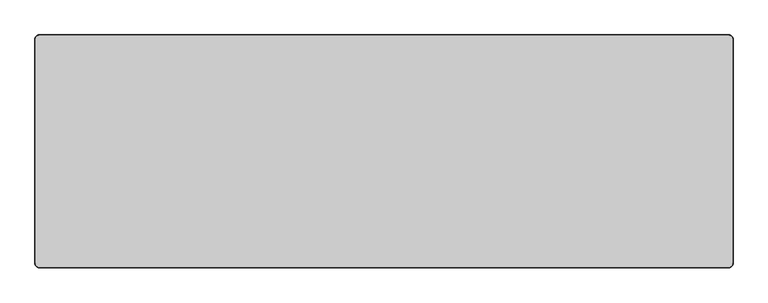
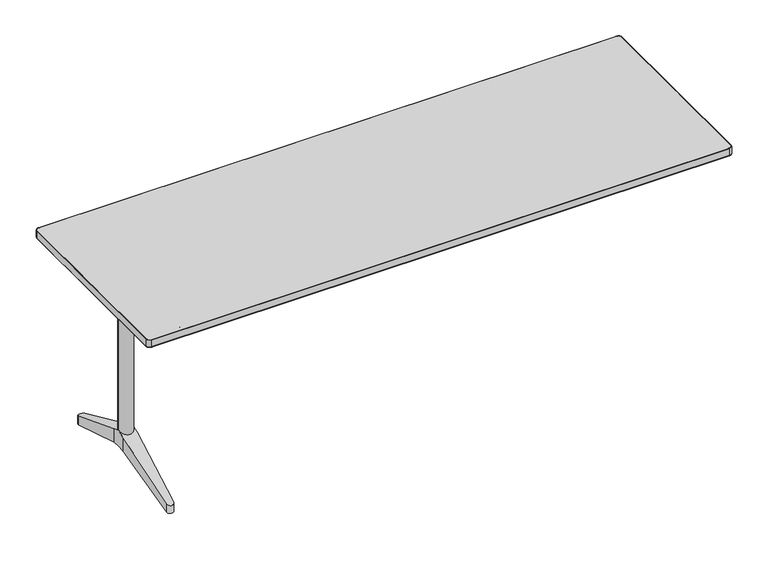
"""IFC4 building model written with IfcOpenShell, lengths in millimetres: furniture geometry."""

import ifcopenshell
import ifcopenshell.guid

model = None  # the IFC model being written
_history = None  # IfcOwnerHistory: only IFC2X3 demands one
_inside = {}  # id of a spatial element -> (the spatial element, [elements in it])
_under = {}  # id of a project, library or spatial element -> (it, [spatial elements below it])
_declared = {}  # id of a project -> (the project, [libraries it declares])
_typed = {}  # id of a type object -> (the type object, [elements of that type])
_made_of = {}  # id of a material, layer set ... -> (it, [elements and type objects made of it])


def new_model(schema):
    """Start an empty IFC model of exactly this schema.

    Asked for "IFC4X3", IfcOpenShell would pick the latest addendum, in which some entities
    have other attributes; the version numbers below select the first issue.
    IFC2X3 requires an IfcOwnerHistory on every rooted entity: one is made here for all.
    """
    global model, _history
    if schema == "IFC4X3":
        model = ifcopenshell.file(schema_version=(4, 3, 0, 0))
    else:
        model = ifcopenshell.file(schema=schema)
    _inside.clear()
    _under.clear()
    _declared.clear()
    _typed.clear()
    _made_of.clear()
    _history = None
    if model.schema == "IFC2X3":
        org = make("IfcOrganization", Name="unknown")
        user = make(
            "IfcPersonAndOrganization",
            ThePerson=make("IfcPerson", FamilyName="unknown"),
            TheOrganization=org,
        )
        app = make(
            "IfcApplication",
            ApplicationDeveloper=org,
            Version="unknown",
            ApplicationFullName="unknown",
            ApplicationIdentifier="unknown",
        )
        _history = make(
            "IfcOwnerHistory",
            OwningUser=user,
            OwningApplication=app,
            ChangeAction="ADDED",
            CreationDate=0,
        )
    return model


def make(cls, **values):
    """One entity of the class cls with the attributes given. An attribute that is None is left unset."""
    return model.create_entity(
        cls, **{name: value for name, value in values.items() if value is not None}
    )


def rooted(cls, **values):
    """An entity with a GlobalId (a new one), such as an element, a storey or a relation."""
    return make(cls, GlobalId=ifcopenshell.guid.new(), OwnerHistory=_history, **values)


def si_unit(unit_type, name, prefix=None):
    """IfcSIUnit, for example si_unit("LENGTHUNIT", "METRE", prefix="MILLI")."""
    return make("IfcSIUnit", UnitType=unit_type, Prefix=prefix, Name=name)


def assignment(units):
    """IfcUnitAssignment: the units of a project."""
    return None if units is None else make("IfcUnitAssignment", Units=units)


def point(xyz):
    """IfcCartesianPoint."""
    return None if xyz is None else make("IfcCartesianPoint", Coordinates=xyz)


def direction(xyz):
    """IfcDirection."""
    return None if xyz is None else make("IfcDirection", DirectionRatios=xyz)


def frame(location, z_axis=None, x_axis=None):
    """IfcAxis2Placement3D, a coordinate frame: its origin and axes. An axis left out is left unset."""
    return make(
        "IfcAxis2Placement3D",
        Location=point(location),
        Axis=direction(z_axis),
        RefDirection=direction(x_axis),
    )


def frame_2d(location, x_axis=None):
    """IfcAxis2Placement2D, a coordinate frame in the plane: its origin and x axis."""
    return make(
        "IfcAxis2Placement2D", Location=point(location), RefDirection=direction(x_axis)
    )


def origin():
    """The frame at (0, 0, 0) with its axes left unset."""
    return frame((0.0, 0.0, 0.0))


def place(relative_to, where):
    """IfcLocalPlacement: puts the frame where relative to a parent placement (None: the world)."""
    return make(
        "IfcLocalPlacement", PlacementRelTo=relative_to, RelativePlacement=where
    )


def context(
    kind, dimensions, precision=None, world=None, true_north=None, identifier=None
):
    """IfcGeometricRepresentationContext, for example the 3D "Model" context."""
    return make(
        "IfcGeometricRepresentationContext",
        ContextIdentifier=identifier,
        ContextType=kind,
        CoordinateSpaceDimension=dimensions,
        Precision=precision,
        WorldCoordinateSystem=world,
        TrueNorth=true_north,
    )


def project(units=None, contexts=None):
    """IfcProject with its units and contexts."""
    return rooted(
        "IfcProject",
        Name="project",
        RepresentationContexts=contexts,
        UnitsInContext=assignment(units),
    )


def spatial(cls, under=None, at=None, **own):
    """A site, building, storey or space (cls), placed at a placement, below another one or the project."""
    s = rooted(cls, ObjectPlacement=at, **own)
    if under is not None:
        _under.setdefault(under.id(), (under, []))[1].append(s)
    return s


def polyline(points):
    """IfcPolyline through the points."""
    return make("IfcPolyline", Points=[point(p) for p in points])


def circle_curve(where, radius):
    """IfcCircle in the frame where."""
    return make("IfcCircle", Position=where, Radius=radius)


def ellipse_curve(where, semi_axis1, semi_axis2):
    """IfcEllipse in the frame where."""
    return make(
        "IfcEllipse", Position=where, SemiAxis1=semi_axis1, SemiAxis2=semi_axis2
    )


def trimmed(basis, trim1, trim2, sense, master):
    """IfcTrimmedCurve: the piece of a basis curve between two trims."""
    return make(
        "IfcTrimmedCurve",
        BasisCurve=basis,
        Trim1=trim1,
        Trim2=trim2,
        SenseAgreement=sense,
        MasterRepresentation=master,
    )


def segment(curve, same_sense, transition):
    """IfcCompositeCurveSegment."""
    return make(
        "IfcCompositeCurveSegment",
        Transition=transition,
        SameSense=same_sense,
        ParentCurve=curve,
    )


def composite_curve(segments, self_intersect=None):
    """IfcCompositeCurve: segments joined end to end."""
    return make("IfcCompositeCurve", Segments=segments, SelfIntersect=self_intersect)


def outline(outer, holes=None, kind="AREA"):
    """IfcArbitraryClosedProfileDef: a profile drawn as a closed curve; with holes, ...WithVoids."""
    if holes is None:
        return make("IfcArbitraryClosedProfileDef", ProfileType=kind, OuterCurve=outer)
    return make(
        "IfcArbitraryProfileDefWithVoids",
        ProfileType=kind,
        OuterCurve=outer,
        InnerCurves=holes,
    )


def extrude(swept, where, along, depth):
    """IfcExtrudedAreaSolid: the profile swept, set in the frame where, extruded along a direction by depth."""
    return make(
        "IfcExtrudedAreaSolid",
        SweptArea=swept,
        Position=where,
        ExtrudedDirection=direction(along),
        Depth=depth,
    )


def faces_of(points, faces, orient=None, outer=None):
    """IfcFace entities. A face is a list of loops; a loop is a list of indices into points, from 0.

    orient and outer hold one flag for each loop. By default every Orientation is true, the
    first loop of a face is its IfcFaceOuterBound and the others are IfcFaceBound.
    """
    made = []
    for i, loops in enumerate(faces):
        bounds = []
        for j, loop in enumerate(loops):
            is_outer = j == 0 if outer is None else outer[i][j]
            bounds.append(
                make(
                    "IfcFaceOuterBound" if is_outer else "IfcFaceBound",
                    Bound=make("IfcPolyLoop", Polygon=[points[k] for k in loop]),
                    Orientation=True if orient is None else orient[i][j],
                )
            )
        made.append(make("IfcFace", Bounds=bounds))
    return made


def faceted_brep(points, faces, orient=None, outer=None, voids=None):
    """IfcFacetedBrep: a solid bounded by flat faces; with voids (closed shells), ...WithVoids."""
    shared = [point(p) for p in points]
    hull = make("IfcClosedShell", CfsFaces=faces_of(shared, faces, orient, outer))
    if voids is None:
        return make("IfcFacetedBrep", Outer=hull)
    return make(
        "IfcFacetedBrepWithVoids",
        Outer=hull,
        Voids=[
            make(cls, CfsFaces=faces_of(shared, fs, o, b)) for cls, fs, o, b in voids
        ],
    )


def shape(context_of_items, identifier, shape_type, items):
    """IfcShapeRepresentation: the items that make up one representation, for example the "Body"."""
    return make(
        "IfcShapeRepresentation",
        ContextOfItems=context_of_items,
        RepresentationIdentifier=identifier,
        RepresentationType=shape_type,
        Items=items,
    )


def source(mapping_origin, context_of_items, identifier, shape_type, items):
    """IfcRepresentationMap: a shape defined once, which mapped items show again and again."""
    return make(
        "IfcRepresentationMap",
        MappingOrigin=mapping_origin,
        MappedRepresentation=shape(context_of_items, identifier, shape_type, items),
    )


def transform(
    local_origin,
    x_axis=None,
    y_axis=None,
    z_axis=None,
    scale=None,
    scale2=None,
    scale3=None,
    uniform=True,
):
    """IfcCartesianTransformationOperator3D, or its non-uniform kind. x_axis, y_axis, z_axis: its Axis1, 2, 3."""
    if uniform:
        return make(
            "IfcCartesianTransformationOperator3D",
            Axis1=direction(x_axis),
            Axis2=direction(y_axis),
            LocalOrigin=point(local_origin),
            Scale=scale,
            Axis3=direction(z_axis),
        )
    return make(
        "IfcCartesianTransformationOperator3DnonUniform",
        Axis1=direction(x_axis),
        Axis2=direction(y_axis),
        LocalOrigin=point(local_origin),
        Scale=scale,
        Axis3=direction(z_axis),
        Scale2=scale2,
        Scale3=scale3,
    )


def mapped(mapping_source, mapping_target):
    """IfcMappedItem: shows the shape of a source again, moved by a transform."""
    return make(
        "IfcMappedItem", MappingSource=mapping_source, MappingTarget=mapping_target
    )


def made_of(thing, what):
    """Note that an element or type object is made of a material, layer set ...; save() writes the relation."""
    if what is not None:
        _made_of.setdefault(what.id(), (what, []))[1].append(thing)
    return thing


def element(
    cls,
    number,
    at=None,
    inside=None,
    cuts=None,
    type_object=None,
    material=None,
    context=None,
    identifier="Body",
    shape_type=None,
    held_by="IfcProductDefinitionShape",
    body=None,
    shapes=None,
    **own,
):
    """One element of the class cls, such as IfcWall. Its Tag is "e" and its number.

    at: its placement. inside: the storey or other place that contains it. cuts: it is an
    opening in that element (IfcRelVoidsElement). A single representation is given by context,
    identifier, shape_type and body (its items); several are given by shapes. held_by: the class
    of the entity that holds the representations. save() writes the other relations.
    """
    e = rooted(cls, Tag="e%d" % number, ObjectPlacement=at, **own)
    if body is not None:
        shapes = [shape(context, identifier, shape_type, body)]
    if shapes is not None:
        e.Representation = make(held_by, Representations=shapes)
    if inside is not None:
        _inside.setdefault(inside.id(), (inside, []))[1].append(e)
    if cuts is not None:
        rooted(
            "IfcRelVoidsElement", RelatingBuildingElement=cuts, RelatedOpeningElement=e
        )
    if type_object is not None:
        _typed.setdefault(type_object.id(), (type_object, []))[1].append(e)
    return made_of(e, material)


def aggregate(whole, parts):
    """IfcRelAggregates: a whole, such as a stair, and the parts it consists of."""
    return rooted("IfcRelAggregates", RelatingObject=whole, RelatedObjects=parts)


def save(model, path):
    """Write the relations noted so far, then the file.

    IfcRelAggregates (storeys below a building ...), IfcRelContainedInSpatialStructure (elements
    in a storey), IfcRelDefinesByType, IfcRelAssociatesMaterial and IfcRelDeclares: one each for
    every whole, place, type object, material and project.
    """
    for whole, parts in _under.values():
        aggregate(whole, parts)
    for where, things in _inside.values():
        rooted(
            "IfcRelContainedInSpatialStructure",
            RelatedElements=things,
            RelatingStructure=where,
        )
    for kind, things in _typed.values():
        rooted("IfcRelDefinesByType", RelatedObjects=things, RelatingType=kind)
    for what, things in _made_of.values():
        rooted("IfcRelAssociatesMaterial", RelatedObjects=things, RelatingMaterial=what)
    for by, libraries in _declared.values():
        rooted("IfcRelDeclares", RelatingContext=by, RelatedDefinitions=libraries)
    model.write(path)


def plane_surface(at):
    """IfcPlane: the flat surface through the origin of the frame at, square to its z axis."""
    return make("IfcPlane", Position=at)


def cylinder_surface(at, radius):
    """IfcCylindricalSurface: all points at the distance radius from the z axis of the frame at."""
    return make("IfcCylindricalSurface", Position=at, Radius=radius)


def revolved_surface(curve, axis_point, axis_direction):
    """IfcSurfaceOfRevolution: the curve turned about the line through axis_point along axis_direction."""
    return make(
        "IfcSurfaceOfRevolution",
        SweptCurve=make("IfcArbitraryOpenProfileDef", ProfileType="CURVE", Curve=curve),
        AxisPosition=make("IfcAxis1Placement", Location=point(axis_point), Axis=direction(axis_direction)),
    )


def advanced_brep(points, edges, surfaces, faces):
    """IfcAdvancedBrep: a solid bounded by faces that lie on surfaces and meet in shared edges.

    An edge is (start, end): straight between two places in points (the first is 0);
    or (start, end, curve); or (start, end, curve, False) where it runs against its curve.
    A face is (place in surfaces, loops), or (place, loops, False) where it looks against
    its surface's normal. A loop lists edges by number (the first is 1), with a minus sign
    where the edge is run from its end to its start. The first loop is the outer one.
    """
    corners = [point(p) for p in points]
    vertices = [make("IfcVertexPoint", VertexGeometry=c) for c in corners]
    made = []
    for start, end, *more in edges:
        made.append(
            make(
                "IfcEdgeCurve",
                EdgeStart=vertices[start],
                EdgeEnd=vertices[end],
                EdgeGeometry=more[0] if more else make("IfcPolyline", Points=[corners[start], corners[end]]),
                SameSense=more[1] if len(more) > 1 else True,
            )
        )
    hull = []
    for where, loops, *sense in faces:
        bounds = []
        for j, loop in enumerate(loops):
            ring = [make("IfcOrientedEdge", EdgeElement=made[abs(k) - 1], Orientation=k > 0) for k in loop]
            bounds.append(
                make(
                    "IfcFaceOuterBound" if j == 0 else "IfcFaceBound",
                    Bound=make("IfcEdgeLoop", EdgeList=ring),
                    Orientation=True,
                )
            )
        hull.append(make("IfcAdvancedFace", Bounds=bounds, FaceSurface=surfaces[where], SameSense=sense[0] if sense else True))
    return make("IfcAdvancedBrep", Outer=make("IfcClosedShell", CfsFaces=hull))


def furniture_f33bda28(model_context):
    return source(origin(), model_context, "Body", "SolidModel", [
        advanced_brep(
        [(-785.1657234, 148.4511551, 210.360006), (-785.1657234, 125.9511544, 219.9000124), (-785.1657234, 103.4511538, 210.360006), (-785.1657234, 103.4511538, 165.9000199), (-785.1657234, 125.9511544, 165.9000199), (-785.1657234, 148.4511551, 165.9000199), (-830.1657383, 148.4511551, 165.9000199), (-830.1657383, 125.9511544, 165.9000199), (-830.1657383, 103.4511538, 165.9000199), (-830.1657383, 103.4511538, 210.360006), (-830.1657383, 125.9511544, 219.9000124), (-830.1657383, 148.4511551, 210.360006), (-797.627182, -113.0675149, 88.8098467), (-817.7042073, -113.0675149, 88.8098467), (-797.6821683, -114.0242798, 118.1504308), (-817.6492204, -114.0242831, 118.1504294), (-797.6821683, -114.0242798, 88.8098467), (-817.6492204, -114.0242831, 88.8098467), (-797.627182, 364.9698238, 88.8098467), (-817.7042073, 364.9698238, 88.8098467), (-817.6492204, 365.926592, 88.8098467), (-797.6821683, 365.9265887, 88.8098467), (-797.6821683, 365.9265887, 118.1504308), (-817.6492204, 365.926592, 118.1504294)],
        [
            (0, 1),
            (1, 2),
            (2, 3),
            (3, 4),
            (4, 5),
            (5, 0),
            (6, 7),
            (7, 8),
            (8, 9),
            (9, 10),
            (10, 11),
            (11, 6),
            (3, 8),
            (7, 4),
            (6, 5),
            (12, 13),
            (13, 8),
            (3, 12),
            (14, 2),
            (1, 10),
            (9, 15),
            (15, 14, ellipse_curve(frame((-807.6656945, -113.4505156, 118.3937069), z_axis=(0.0, -0.39036065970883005, 0.9206620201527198), x_axis=(0.0, -0.9206620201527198, -0.3903606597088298)), 10.8617492, 10.0)),
            (12, 16),
            (16, 17, circle_curve(frame((-807.6656945, -113.4505156, 88.8098467), z_axis=(0.0, 0.0, -1.0), x_axis=(1.0, 0.0, 0.0)), 10.0)),
            (17, 13),
            (18, 19),
            (19, 20),
            (20, 21, circle_curve(frame((-807.6656945, 365.3528245, 88.8098467), z_axis=(0.0, 0.0, -1.0), x_axis=(1.0, 0.0, 0.0)), 10.0)),
            (21, 18),
            (0, 22),
            (22, 23, ellipse_curve(frame((-807.6656945, 365.3528245, 118.3937069), z_axis=(0.0, 0.39036065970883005, 0.9206620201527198), x_axis=(0.0, 0.9206620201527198, -0.3903606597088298)), 10.8617492, 10.0)),
            (23, 11),
            (18, 5),
            (6, 19),
            (21, 22),
            (23, 20),
            (14, 16),
            (15, 17),
        ],
        [
            plane_surface(frame((-785.1657234, 148.4511551, 210.360006), z_axis=(1.0, 0.0, 0.0), x_axis=(0.0, -0.9206619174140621, 0.3903609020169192))),
            plane_surface(frame((-830.1657383, 148.4511551, 210.360006), z_axis=(-1.0, 0.0, 0.0), x_axis=(0.0, 0.9206619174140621, -0.3903609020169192))),
            plane_surface(frame((-785.1657234, 103.4511538, 165.9000199), z_axis=(0.0, 0.0, -1.0), x_axis=(-1.0, 0.0, 0.0))),
            plane_surface(frame((-785.1657234, 125.9511544, 165.9000199), z_axis=(0.0, 0.0, -1.0), x_axis=(-1.0, 0.0, 0.0))),
            plane_surface(frame((-785.1657234, -113.0675149, 88.8098467), z_axis=(0.0, 0.33541814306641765, -0.9420693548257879), x_axis=(-1.0, 0.0, 0.0))),
            plane_surface(frame((-785.1657234, 103.4511538, 210.360006), z_axis=(0.0, -0.39036065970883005, 0.9206620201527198), x_axis=(-1.0, 0.0, 0.0))),
            plane_surface(frame((-785.1657234, -124.5346363, 88.8098467), z_axis=(0.0, 0.0, -1.0), x_axis=(-1.0, 0.0, 0.0))),
            plane_surface(frame((-785.1657234, 364.9698238, 88.8098467), z_axis=(0.0, 0.0, -1.0), x_axis=(-1.0, 0.0, 0.0))),
            plane_surface(frame((-785.1657234, 376.4369452, 113.6940401), z_axis=(0.0, 0.39036065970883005, 0.9206620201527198), x_axis=(-1.0, 0.0, 0.0))),
            plane_surface(frame((-785.1657234, 148.4511551, 165.9000199), z_axis=(0.0, -0.33541814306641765, -0.9420693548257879), x_axis=(-1.0, 0.0, 0.0))),
            plane_surface(frame((-797.6821683, 365.9265887, 234.8098558), z_axis=(0.9983526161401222, 0.0573764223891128, 0.0), x_axis=(0.0, 0.0, -1.0))),
            plane_surface(frame((-830.1478455, 148.4511551, 234.8098558), z_axis=(-0.9983525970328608, 0.0573767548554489, 0.0), x_axis=(0.0, 0.0, -1.0))),
            cylinder_surface(frame((-807.6656945, 365.3528245, 75.8098498), z_axis=(0.0, 0.0, -1.0), x_axis=(1.0, 0.0, 0.0)), 10.0),
            plane_surface(frame((-785.1836161, 103.4511538, 234.8098558), z_axis=(0.9983526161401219, -0.05737642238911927, 0.0), x_axis=(0.0, 0.0, -1.0))),
            cylinder_surface(frame((-807.6656945, -113.4505156, -14.1901527), z_axis=(0.0, 0.0, -1.0), x_axis=(1.0, 0.0, 0.0)), 10.0),
            plane_surface(frame((-817.6492204, -114.0242831, 234.8098558), z_axis=(-0.9983525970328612, -0.05737675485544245, 0.0), x_axis=(0.0, 0.0, -1.0))),
        ],
        [
            (0, [[1, 2, 3, 4, 5, 6]]),
            (1, [[7, 8, 9, 10, 11, 12]]),
            (2, [[-4, 13, -8, 14]]),
            (3, [[-5, -14, -7, 15]]),
            (4, [[16, 17, -13, 18]]),
            (5, [[19, -2, 20, -10, 21, 22]]),
            (6, [[-16, 23, 24, 25]]),
            (7, [[26, 27, 28, 29]]),
            (8, [[30, 31, 32, -11, -20, -1]]),
            (9, [[-26, 33, -15, 34]]),
            (10, [[35, -30, -6, -33, -29]]),
            (11, [[36, -27, -34, -12, -32]]),
            (12, [[-35, -28, -36, -31]]),
            (13, [[37, -23, -18, -3, -19]]),
            (14, [[-37, -22, 38, -24]]),
            (15, [[-38, -21, -9, -17, -25]]),
        ],
    ),
        extrude(outline(composite_curve([segment(trimmed(circle_curve(frame_2d((-807.6657309, 125.9511544)), 22.0), [point((-829.6657309, 125.9511544))], [point((-785.6657309, 125.9511544))], False, "CARTESIAN"), True, "CONTINUOUS"), segment(trimmed(circle_curve(frame_2d((-807.6657309, 125.9511544)), 22.0), [point((-785.6657309, 125.9511544))], [point((-829.6657309, 125.9511544))], False, "CARTESIAN"), True, "CONTINUOUS")], self_intersect=False)), frame((0.0, 0.0, 165.9000199), z_axis=(0.0, 0.0, 1.0), x_axis=(1.0, 0.0, 0.0)), (0.0, 0.0, 1.0), 509.3499944),
        extrude(outline(polyline([(-839.4000109, 327.7511544), (-779.4000395, 327.7511544), (-779.4000395, -75.8488456), (-839.4000109, -75.8488456), (-839.4000109, 327.7511544)]), holes=[polyline([(-781.4000628, 65.9511581), (-781.4000628, 175.9511571), (-837.3999876, 175.9511571), (-837.3999876, 65.9511581), (-781.4000628, 65.9511581)])]), frame((0.0, 0.0, 684.9999762), z_axis=(0.0, 0.0, 1.0), x_axis=(1.0, 0.0, 0.0)), (0.0, 0.0, 1.0), 20.2500238),
        faceted_brep([(839.4000109, 175.9511571, 705.25), (837.3999876, 175.9511571, 705.25), (837.3999876, 65.9511581, 705.25), (839.4000109, 65.9511581, 705.25), (839.4000109, 175.9511571, 684.9999762), (839.4000109, 65.9511581, 684.9999762), (837.3999876, 65.9511581, 684.9999762), (837.3999876, 175.9511571, 684.9999762), (839.4000109, 65.9511581, 705.0), (839.4000109, -75.8488456, 705.0), (839.4000109, -75.8488456, 685.2499762), (839.4000109, 65.9511581, 685.2499762), (839.4000109, 175.9511571, 685.2499762), (839.4000109, 327.7511544, 685.2499762), (839.4000109, 327.7511544, 705.0), (839.4000109, 175.9511571, 705.0), (837.3999876, 65.9511581, 705.0), (837.3999876, 65.9511581, 685.2499762), (837.3999876, 175.9511571, 705.0), (837.3999876, 175.9511571, 685.2499762), (779.4000395, 327.7511544, 705.0), (779.4000395, 175.9511571, 705.0), (781.4000628, 175.9511571, 705.0), (779.4000395, 65.9511581, 705.0), (779.4000395, -75.8488456, 705.0), (781.4000628, 65.9511581, 705.0), (779.4000395, -75.8488456, 685.2499762), (779.4000395, 65.9511581, 685.2499762), (781.4000628, 65.9511581, 685.2499762), (779.4000395, 175.9511571, 685.2499762), (779.4000395, 327.7511544, 685.2499762), (781.4000628, 175.9511571, 685.2499762), (779.4000395, 175.9511571, 684.9999762), (779.4000395, 65.9511581, 684.9999762), (779.4000395, 65.9511581, 705.25), (779.4000395, 175.9511571, 705.25), (781.4000628, 65.9511581, 705.25), (781.4000628, 175.9511571, 705.25), (781.4000628, 175.9511571, 684.9999762), (781.4000628, 65.9511581, 684.9999762)], [[[0, 1, 2, 3]], [[4, 5, 6, 7]], [[0, 3, 8, 9, 10, 11, 5, 4, 12, 13, 14, 15]], [[3, 2, 16, 8]], [[6, 5, 11, 17]], [[1, 0, 15, 18]], [[4, 7, 19, 12]], [[2, 1, 18, 19, 7, 6, 17, 16]], [[15, 14, 20, 21, 22, 18]], [[23, 24, 9, 8, 16, 25]], [[11, 10, 26, 27, 28, 17]], [[29, 30, 13, 12, 19, 31]], [[20, 14, 13, 30]], [[21, 20, 30, 29, 32, 33, 27, 26, 24, 23, 34, 35]], [[9, 24, 26, 10]], [[16, 17, 28, 25]], [[19, 18, 22, 31]], [[35, 34, 36, 37]], [[32, 38, 39, 33]], [[36, 34, 23, 25]], [[33, 39, 28, 27]], [[35, 37, 22, 21]], [[38, 32, 29, 31]], [[37, 36, 25, 28, 39, 38, 31, 22]]]),
        extrude(outline(polyline([(-785.1657234, 75.9511563), (-830.1657383, 75.9511563), (-830.1657383, 155.951156), (-785.1657234, 155.951156), (-785.1657234, 75.9511563)])), frame((0.0, 0.0, 675.2500143), z_axis=(0.0, 0.0, 1.0), x_axis=(1.0, 0.0, 0.0)), (0.0, 0.0, 1.0), 29.9999857),
        extrude(outline(polyline([(785.1657234, 75.9511563), (785.1657234, 155.951156), (830.1657383, 155.951156), (830.1657383, 75.9511563), (785.1657234, 75.9511563)])), frame((0.0, 0.0, 675.2500143), z_axis=(0.0, 0.0, 1.0), x_axis=(1.0, 0.0, 0.0)), (0.0, 0.0, 1.0), 29.9999857),
        extrude(outline(composite_curve([segment(trimmed(circle_curve(frame_2d((-807.6657309, 125.9511544)), 22.0), [point((-794.3334407, 108.4511533))], [point((-794.3334407, 143.4511556))], True, "CARTESIAN"), True, "CONTINUOUS"), segment(polyline([(-794.3334407, 143.4511556), (794.3334407, 143.4511556)]), True, "CONTINUOUS"), segment(trimmed(circle_curve(frame_2d((807.6657309, 125.9511544)), 22.0), [point((794.3334407, 143.4511556))], [point((794.3334407, 108.4511533))], True, "CARTESIAN"), True, "CONTINUOUS"), segment(polyline([(794.3334407, 108.4511533), (-794.3334407, 108.4511533)]), True, "CONTINUOUS")], self_intersect=False)), frame((0.0, 0.0, 625.2500143), z_axis=(0.0, 0.0, 1.0), x_axis=(1.0, 0.0, 0.0)), (0.0, 0.0, 1.0), 50.0),
        advanced_brep(
        [(-779.4000395, -98.8488456, 676.6414874), (-779.4000395, -98.8488456, 696.6414874), (779.4000395, -98.8488456, 676.6414874), (779.4000395, -98.8488456, 696.6414874), (-772.3107653, -98.8488456, 676.6414874), (-770.863829, -98.8488456, 696.6414874), (-717.3107794, -98.8488456, 668.641467), (-715.8638431, -98.8488456, 688.641467), (717.310768, -98.8488456, 668.641467), (715.8638316, -98.8488456, 688.641467), (772.3107539, -98.8488456, 676.6414874), (770.8638175, -98.8488456, 696.6414874)],
        [
            (0, 1, circle_curve(frame((-779.4000395, -98.8488456, 686.6414874), z_axis=(-1.0, 0.0, 0.0), x_axis=(0.0, 0.0, 1.0)), 10.0)),
            (1, 0, circle_curve(frame((-779.4000395, -98.8488456, 686.6414874), z_axis=(-1.0, 0.0, 0.0), x_axis=(0.0, 0.0, 1.0)), 10.0)),
            (2, 3, circle_curve(frame((779.4000395, -98.8488456, 686.6414874), z_axis=(1.0, 0.0, 0.0), x_axis=(0.0, 0.0, 1.0)), 10.0)),
            (3, 2, circle_curve(frame((779.4000395, -98.8488456, 686.6414874), z_axis=(1.0, 0.0, 0.0), x_axis=(0.0, 0.0, 1.0)), 10.0)),
            (0, 4),
            (4, 5, ellipse_curve(frame((-771.5872971, -98.8488456, 686.6414874), z_axis=(-0.9973931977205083, 0.0, 0.07215822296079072), x_axis=(-0.07215822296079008, 0.0, -0.9973931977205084)), 10.0261362, 10.0)),
            (5, 1),
            (5, 4, ellipse_curve(frame((-771.5872971, -98.8488456, 686.6414874), z_axis=(-0.9973931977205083, 0.0, 0.07215822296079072), x_axis=(-0.07215822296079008, 0.0, -0.9973931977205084)), 10.0261362, 10.0)),
            (4, 6),
            (6, 7, ellipse_curve(frame((-716.5873113, -98.8488456, 678.641467), z_axis=(-0.9973931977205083, 0.0, 0.07215822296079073), x_axis=(0.07215822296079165, 0.0, 0.9973931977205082)), 10.0261362, 10.0)),
            (7, 5),
            (7, 6, ellipse_curve(frame((-716.5873113, -98.8488456, 678.641467), z_axis=(-0.9973931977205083, 0.0, 0.07215822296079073), x_axis=(0.07215822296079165, 0.0, 0.9973931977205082)), 10.0261362, 10.0)),
            (6, 8),
            (8, 9, ellipse_curve(frame((716.5872998, -98.8488456, 678.641467), z_axis=(-0.9973931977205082, 0.0, -0.07215822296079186), x_axis=(-0.07215822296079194, 0.0, 0.9973931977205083)), 10.0261362, 10.0)),
            (9, 7),
            (9, 8, ellipse_curve(frame((716.5872998, -98.8488456, 678.641467), z_axis=(-0.9973931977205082, 0.0, -0.07215822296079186), x_axis=(-0.07215822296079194, 0.0, 0.9973931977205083)), 10.0261362, 10.0)),
            (8, 10),
            (10, 11, ellipse_curve(frame((771.5872857, -98.8488456, 686.6414874), z_axis=(-0.9973931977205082, 0.0, -0.07215822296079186), x_axis=(0.07215822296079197, 0.0, -0.9973931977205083)), 10.0261362, 10.0)),
            (11, 9),
            (11, 10, ellipse_curve(frame((771.5872857, -98.8488456, 686.6414874), z_axis=(-0.9973931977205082, 0.0, -0.07215822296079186), x_axis=(0.07215822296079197, 0.0, -0.9973931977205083)), 10.0261362, 10.0)),
            (10, 2),
            (3, 11),
        ],
        [
            plane_surface(frame((-779.4000395, -75.8488456, 716.8750406), z_axis=(-1.0, 0.0, 0.0), x_axis=(0.0, -1.0, 0.0))),
            plane_surface(frame((779.4000395, -75.8488456, 716.8750406), z_axis=(1.0, 0.0, 0.0), x_axis=(0.0, -1.0, 0.0))),
            cylinder_surface(frame((-779.4000395, -98.8488456, 686.6414874), z_axis=(-1.0, 0.0, 0.0), x_axis=(0.0, 0.0, 1.0)), 10.0),
            cylinder_surface(frame((-773.7518208, -98.8488456, 686.9563281), z_axis=(-0.9895863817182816, 0.0, 0.14394024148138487), x_axis=(0.14394024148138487, 0.0, 0.9895863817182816)), 10.0),
            cylinder_surface(frame((-714.4000099, -98.8488456, 678.641467), z_axis=(-1.0, 0.0, 0.0), x_axis=(0.0, 0.0, 1.0)), 10.0),
            cylinder_surface(frame((718.7518234, -98.8488456, 678.9563077), z_axis=(-0.9895863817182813, 0.0, -0.1439402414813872), x_axis=(-0.1439402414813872, 0.0, 0.9895863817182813)), 10.0),
            cylinder_surface(frame((769.3999844, -98.8488456, 686.6414874), z_axis=(-1.0, 0.0, 0.0), x_axis=(0.0, 0.0, 1.0)), 10.0),
        ],
        [
            (0, [[1, 2]]),
            (1, [[3, 4]]),
            (2, [[-1, 5, 6, 7]]),
            (2, [[-2, -7, 8, -5]]),
            (3, [[-6, 9, 10, 11]]),
            (3, [[-8, -11, 12, -9]]),
            (4, [[-10, 13, 14, 15]]),
            (4, [[-12, -15, 16, -13]]),
            (5, [[-14, 17, 18, 19]]),
            (5, [[-16, -19, 20, -17]]),
            (6, [[-18, 21, -4, 22]]),
            (6, [[-20, -22, -3, -21]]),
        ],
    ),
        extrude(outline(composite_curve([segment(trimmed(circle_curve(frame_2d((-904.4, 420.7511544)), 10.0), [point((-914.4, 420.7511544))], [point((-904.4, 430.7511544))], False, "CARTESIAN"), True, "CONTINUOUS"), segment(polyline([(-904.4, 430.7511544), (904.4, 430.7511544)]), True, "CONTINUOUS"), segment(trimmed(circle_curve(frame_2d((904.4, 420.7511544)), 10.0), [point((904.4, 430.7511544))], [point((914.4, 420.7511544))], False, "CARTESIAN"), True, "CONTINUOUS"), segment(polyline([(914.4, 420.7511544), (914.4, -168.8488456)]), True, "CONTINUOUS"), segment(trimmed(circle_curve(frame_2d((904.4, -168.8488456)), 10.0), [point((914.4, -168.8488456))], [point((904.4, -178.8488456))], False, "CARTESIAN"), True, "CONTINUOUS"), segment(polyline([(904.4, -178.8488456), (-904.4, -178.8488456)]), True, "CONTINUOUS"), segment(trimmed(circle_curve(frame_2d((-904.4, -168.8488456)), 10.0), [point((-904.4, -178.8488456))], [point((-914.4, -168.8488456))], False, "CARTESIAN"), True, "CONTINUOUS"), segment(polyline([(-914.4, -168.8488456), (-914.4, 420.7511544)]), True, "CONTINUOUS")], self_intersect=False)), frame((0.0, 0.0, 705.25), z_axis=(0.0, 0.0, 1.0), x_axis=(1.0, 0.0, 0.0)), (0.0, 0.0, 1.0), 25.0),
        advanced_brep(
        [(914.4, -168.8488456, 705.25), (904.4, -178.8488456, 705.25), (904.4, -178.8488456, 730.25), (914.4, -168.8488456, 730.25), (914.4, 420.7511544, 730.25), (914.4, 420.7511544, 705.25), (904.4, 430.7511544, 705.25), (904.4, 430.7511544, 730.25), (-904.4, 430.7511544, 730.25), (-904.4, 430.7511544, 705.25), (-914.4, 420.7511544, 705.25), (-914.4, 420.7511544, 730.25), (-914.4, -168.8488456, 730.25), (-914.4, -168.8488456, 705.25), (-904.4, -178.8488456, 705.25), (-904.4, -178.8488456, 730.25), (915.4, -168.8488456, 706.25), (904.4, -179.8488456, 706.25), (915.4, -168.8488456, 729.25), (904.4, -179.8488456, 729.25), (915.4, 420.7511544, 706.25), (915.4, 420.7511544, 729.25), (904.4, 431.7511544, 706.25), (904.4, 431.7511544, 729.25), (-904.4, 431.7511544, 706.25), (-904.4, 431.7511544, 729.25), (-915.4, 420.7511544, 706.25), (-915.4, 420.7511544, 729.25), (-915.4, -168.8488456, 706.25), (-915.4, -168.8488456, 729.25), (-904.4, -179.8488456, 706.25), (-904.4, -179.8488456, 729.25)],
        [
            (0, 1, circle_curve(frame((904.4, -168.8488456, 705.25), z_axis=(0.0, 0.0, -1.0), x_axis=(0.0, -1.0, 0.0)), 10.0)),
            (1, 2),
            (2, 3, circle_curve(frame((904.4, -168.8488456, 730.25), z_axis=(0.0, 0.0, 1.0), x_axis=(0.0, -1.0, 0.0)), 10.0)),
            (3, 0),
            (3, 4),
            (4, 5),
            (5, 0),
            (6, 5, circle_curve(frame((904.4, 420.7511544, 705.25), z_axis=(0.0, 0.0, -1.0), x_axis=(1.0, 0.0, 0.0)), 10.0)),
            (4, 7, circle_curve(frame((904.4, 420.7511544, 730.25), z_axis=(0.0, 0.0, 1.0), x_axis=(1.0, 0.0, 0.0)), 10.0)),
            (7, 6),
            (7, 8),
            (8, 9),
            (9, 6),
            (10, 9, circle_curve(frame((-904.4, 420.7511544, 705.25), z_axis=(0.0, 0.0, -1.0), x_axis=(0.0, 1.0, 0.0)), 10.0)),
            (8, 11, circle_curve(frame((-904.4, 420.7511544, 730.25), z_axis=(0.0, 0.0, 1.0), x_axis=(0.0, 1.0, 0.0)), 10.0)),
            (11, 10),
            (11, 12),
            (12, 13),
            (13, 10),
            (14, 13, circle_curve(frame((-904.4, -168.8488456, 705.25), z_axis=(0.0, 0.0, -1.0), x_axis=(-1.0, 0.0, 0.0)), 10.0)),
            (12, 15, circle_curve(frame((-904.4, -168.8488456, 730.25), z_axis=(0.0, 0.0, 1.0), x_axis=(-1.0, 0.0, 0.0)), 10.0)),
            (15, 14),
            (15, 2),
            (1, 14),
            (16, 17, circle_curve(frame((904.4, -168.8488456, 706.25), z_axis=(0.0, 0.0, -1.0), x_axis=(0.0, -1.0, 0.0)), 11.0)),
            (17, 1, circle_curve(frame((904.4, -178.8488456, 706.25), z_axis=(1.0, 0.0, 0.0), x_axis=(0.0, 1.0, 0.0)), 1.0)),
            (0, 16, circle_curve(frame((914.4, -168.8488456, 706.25), z_axis=(0.0, -1.0, 0.0), x_axis=(-1.0, 0.0, 0.0)), 1.0)),
            (18, 19, circle_curve(frame((904.4, -168.8488456, 729.25), z_axis=(0.0, 0.0, -1.0), x_axis=(0.0, -1.0, 0.0)), 11.0)),
            (19, 17),
            (16, 18),
            (2, 19, circle_curve(frame((904.4, -178.8488456, 729.25), z_axis=(1.0, 0.0, 0.0), x_axis=(0.0, 1.0, 0.0)), 1.0)),
            (18, 3, circle_curve(frame((914.4, -168.8488456, 729.25), z_axis=(0.0, -1.0, 0.0), x_axis=(-1.0, 0.0, 0.0)), 1.0)),
            (5, 20, circle_curve(frame((914.4, 420.7511544, 706.25), z_axis=(0.0, -1.0, 0.0), x_axis=(-1.0, 0.0, 0.0)), 1.0)),
            (20, 16),
            (20, 21),
            (21, 18),
            (21, 4, circle_curve(frame((914.4, 420.7511544, 729.25), z_axis=(0.0, -1.0, 0.0), x_axis=(-1.0, 0.0, 0.0)), 1.0)),
            (22, 20, circle_curve(frame((904.4, 420.7511544, 706.25), z_axis=(0.0, 0.0, -1.0), x_axis=(1.0, 0.0, 0.0)), 11.0)),
            (6, 22, circle_curve(frame((904.4, 430.7511544, 706.25), z_axis=(1.0, 0.0, 0.0), x_axis=(0.0, -1.0, 0.0)), 1.0)),
            (23, 21, circle_curve(frame((904.4, 420.7511544, 729.25), z_axis=(0.0, 0.0, -1.0), x_axis=(1.0, 0.0, 0.0)), 11.0)),
            (22, 23),
            (23, 7, circle_curve(frame((904.4, 430.7511544, 729.25), z_axis=(1.0, 0.0, 0.0), x_axis=(0.0, -1.0, 0.0)), 1.0)),
            (9, 24, circle_curve(frame((-904.4, 430.7511544, 706.25), z_axis=(1.0, 0.0, 0.0), x_axis=(0.0, -1.0, 0.0)), 1.0)),
            (24, 22),
            (24, 25),
            (25, 23),
            (25, 8, circle_curve(frame((-904.4, 430.7511544, 729.25), z_axis=(1.0, 0.0, 0.0), x_axis=(0.0, -1.0, 0.0)), 1.0)),
            (26, 24, circle_curve(frame((-904.4, 420.7511544, 706.25), z_axis=(0.0, 0.0, -1.0), x_axis=(0.0, 1.0, 0.0)), 11.0)),
            (10, 26, circle_curve(frame((-914.4, 420.7511544, 706.25), z_axis=(0.0, 1.0, 0.0), x_axis=(1.0, 0.0, 0.0)), 1.0)),
            (27, 25, circle_curve(frame((-904.4, 420.7511544, 729.25), z_axis=(0.0, 0.0, -1.0), x_axis=(0.0, 1.0, 0.0)), 11.0)),
            (26, 27),
            (27, 11, circle_curve(frame((-914.4, 420.7511544, 729.25), z_axis=(0.0, 1.0, 0.0), x_axis=(1.0, 0.0, 0.0)), 1.0)),
            (13, 28, circle_curve(frame((-914.4, -168.8488456, 706.25), z_axis=(0.0, 1.0, 0.0), x_axis=(1.0, 0.0, 0.0)), 1.0)),
            (28, 26),
            (28, 29),
            (29, 27),
            (29, 12, circle_curve(frame((-914.4, -168.8488456, 729.25), z_axis=(0.0, 1.0, 0.0), x_axis=(1.0, 0.0, 0.0)), 1.0)),
            (30, 28, circle_curve(frame((-904.4, -168.8488456, 706.25), z_axis=(0.0, 0.0, -1.0), x_axis=(-1.0, 0.0, 0.0)), 11.0)),
            (14, 30, circle_curve(frame((-904.4, -178.8488456, 706.25), z_axis=(-1.0, 0.0, 0.0), x_axis=(0.0, 1.0, 0.0)), 1.0)),
            (31, 29, circle_curve(frame((-904.4, -168.8488456, 729.25), z_axis=(0.0, 0.0, -1.0), x_axis=(-1.0, 0.0, 0.0)), 11.0)),
            (30, 31),
            (31, 15, circle_curve(frame((-904.4, -178.8488456, 729.25), z_axis=(-1.0, 0.0, 0.0), x_axis=(0.0, 1.0, 0.0)), 1.0)),
            (17, 30),
            (19, 31),
        ],
        [
            revolved_surface(polyline([(904.4, -178.8488456, 730.25), (904.4, -178.8488456, 705.25)]), (904.4, -168.8488456, 730.25), (0.0, 0.0, 1.0)),
            plane_surface(frame((914.4, -168.8488456, 730.25), z_axis=(-1.0, 0.0, 0.0), x_axis=(0.0, 1.0, 0.0))),
            revolved_surface(polyline([(914.4, 420.7511544, 730.25), (914.4, 420.7511544, 705.25)]), (904.4, 420.7511544, 730.25), (0.0, 0.0, 1.0)),
            plane_surface(frame((904.4, 430.7511544, 730.25), z_axis=(0.0, -1.0, 0.0), x_axis=(-1.0, 0.0, 0.0))),
            revolved_surface(polyline([(-904.4, 430.7511544, 730.25), (-904.4, 430.7511544, 705.25)]), (-904.4, 420.7511544, 730.25), (0.0, 0.0, 1.0)),
            plane_surface(frame((-914.4, 420.7511544, 730.25), z_axis=(1.0, 0.0, 0.0), x_axis=(0.0, -1.0, 0.0))),
            revolved_surface(polyline([(-914.4, -168.8488456, 730.25), (-914.4, -168.8488456, 705.25)]), (-904.4, -168.8488456, 730.25), (0.0, 0.0, 1.0)),
            plane_surface(frame((-904.4, -178.8488456, 730.25), z_axis=(0.0, 1.0, 0.0), x_axis=(1.0, 0.0, 0.0))),
            revolved_surface(trimmed(ellipse_curve(frame((904.4, -178.8488456, 706.25), z_axis=(-1.0, 0.0, 0.0), x_axis=(0.0, 1.0, 0.0)), 1.0, 1.0), [point((904.4, -178.8488456, 705.25))], [point((904.4, -179.8488456, 706.25))], True, "CARTESIAN"), (904.4, -168.8488456, 730.25), (0.0, 0.0, 1.0)),
            cylinder_surface(frame((904.4, -168.8488456, 730.25), z_axis=(0.0, 0.0, 1.0), x_axis=(0.0, -1.0, 0.0)), 11.0),
            revolved_surface(trimmed(ellipse_curve(frame((904.4, -178.8488456, 729.25), z_axis=(-1.0, 0.0, 0.0), x_axis=(0.0, 1.0, 0.0)), 1.0, 1.0), [point((904.4, -179.8488456, 729.25))], [point((904.4, -178.8488456, 730.25))], True, "CARTESIAN"), (904.4, -168.8488456, 730.25), (0.0, 0.0, 1.0)),
            cylinder_surface(frame((914.4, -168.8488456, 706.25), z_axis=(0.0, -1.0, 0.0), x_axis=(-1.0, 0.0, 0.0)), 1.0),
            plane_surface(frame((915.4, -168.8488456, 706.25), z_axis=(1.0, 0.0, 0.0), x_axis=(0.0, 1.0, 0.0))),
            cylinder_surface(frame((914.4, -168.8488456, 729.25), z_axis=(0.0, -1.0, 0.0), x_axis=(-1.0, 0.0, 0.0)), 1.0),
            revolved_surface(trimmed(ellipse_curve(frame((914.4, 420.7511544, 706.25), z_axis=(0.0, -1.0, 0.0), x_axis=(-1.0, 0.0, 0.0)), 1.0, 1.0), [point((914.4, 420.7511544, 705.25))], [point((915.4, 420.7511544, 706.25))], True, "CARTESIAN"), (904.4, 420.7511544, 730.25), (0.0, 0.0, 1.0)),
            cylinder_surface(frame((904.4, 420.7511544, 730.25), z_axis=(0.0, 0.0, 1.0), x_axis=(1.0, 0.0, 0.0)), 11.0),
            revolved_surface(trimmed(ellipse_curve(frame((914.4, 420.7511544, 729.25), z_axis=(0.0, -1.0, 0.0), x_axis=(-1.0, 0.0, 0.0)), 1.0, 1.0), [point((915.4, 420.7511544, 729.25))], [point((914.4, 420.7511544, 730.25))], True, "CARTESIAN"), (904.4, 420.7511544, 730.25), (0.0, 0.0, 1.0)),
            cylinder_surface(frame((904.4, 430.7511544, 706.25), z_axis=(1.0, 0.0, 0.0), x_axis=(0.0, -1.0, 0.0)), 1.0),
            plane_surface(frame((904.4, 431.7511544, 706.25), z_axis=(0.0, 1.0, 0.0), x_axis=(-1.0, 0.0, 0.0))),
            cylinder_surface(frame((904.4, 430.7511544, 729.25), z_axis=(1.0, 0.0, 0.0), x_axis=(0.0, -1.0, 0.0)), 1.0),
            revolved_surface(trimmed(ellipse_curve(frame((-904.4, 430.7511544, 706.25), z_axis=(1.0, 0.0, 0.0), x_axis=(0.0, -1.0, 0.0)), 1.0, 1.0), [point((-904.4, 430.7511544, 705.25))], [point((-904.4, 431.7511544, 706.25))], True, "CARTESIAN"), (-904.4, 420.7511544, 730.25), (0.0, 0.0, 1.0)),
            cylinder_surface(frame((-904.4, 420.7511544, 730.25), z_axis=(0.0, 0.0, 1.0), x_axis=(0.0, 1.0, 0.0)), 11.0),
            revolved_surface(trimmed(ellipse_curve(frame((-904.4, 430.7511544, 729.25), z_axis=(1.0, 0.0, 0.0), x_axis=(0.0, -1.0, 0.0)), 1.0, 1.0), [point((-904.4, 431.7511544, 729.25))], [point((-904.4, 430.7511544, 730.25))], True, "CARTESIAN"), (-904.4, 420.7511544, 730.25), (0.0, 0.0, 1.0)),
            cylinder_surface(frame((-914.4, 420.7511544, 706.25), z_axis=(0.0, 1.0, 0.0), x_axis=(1.0, 0.0, 0.0)), 1.0),
            plane_surface(frame((-915.4, 420.7511544, 706.25), z_axis=(-1.0, 0.0, 0.0), x_axis=(0.0, -1.0, 0.0))),
            cylinder_surface(frame((-914.4, 420.7511544, 729.25), z_axis=(0.0, 1.0, 0.0), x_axis=(1.0, 0.0, 0.0)), 1.0),
            revolved_surface(trimmed(ellipse_curve(frame((-914.4, -168.8488456, 706.25), z_axis=(0.0, 1.0, 0.0), x_axis=(1.0, 0.0, 0.0)), 1.0, 1.0), [point((-914.4, -168.8488456, 705.25))], [point((-915.4, -168.8488456, 706.25))], True, "CARTESIAN"), (-904.4, -168.8488456, 730.25), (0.0, 0.0, 1.0)),
            cylinder_surface(frame((-904.4, -168.8488456, 730.25), z_axis=(0.0, 0.0, 1.0), x_axis=(-1.0, 0.0, 0.0)), 11.0),
            revolved_surface(trimmed(ellipse_curve(frame((-914.4, -168.8488456, 729.25), z_axis=(0.0, 1.0, 0.0), x_axis=(1.0, 0.0, 0.0)), 1.0, 1.0), [point((-915.4, -168.8488456, 729.25))], [point((-914.4, -168.8488456, 730.25))], True, "CARTESIAN"), (-904.4, -168.8488456, 730.25), (0.0, 0.0, 1.0)),
            cylinder_surface(frame((-904.4, -178.8488456, 706.25), z_axis=(-1.0, 0.0, 0.0), x_axis=(0.0, 1.0, 0.0)), 1.0),
            plane_surface(frame((-904.4, -179.8488456, 706.25), z_axis=(0.0, -1.0, 0.0), x_axis=(1.0, 0.0, 0.0))),
            cylinder_surface(frame((-904.4, -178.8488456, 729.25), z_axis=(-1.0, 0.0, 0.0), x_axis=(0.0, 1.0, 0.0)), 1.0),
        ],
        [
            (0, [[1, 2, 3, 4]]),
            (1, [[-4, 5, 6, 7]]),
            (2, [[8, -6, 9, 10]]),
            (3, [[-10, 11, 12, 13]]),
            (4, [[14, -12, 15, 16]]),
            (5, [[-16, 17, 18, 19]]),
            (6, [[20, -18, 21, 22]]),
            (7, [[-22, 23, -2, 24]]),
            (8, [[25, 26, -1, 27]]),
            (9, [[28, 29, -25, 30]]),
            (10, [[-3, 31, -28, 32]]),
            (11, [[-27, -7, 33, 34]]),
            (12, [[-30, -34, 35, 36]]),
            (13, [[-32, -36, 37, -5]]),
            (14, [[38, -33, -8, 39]]),
            (15, [[40, -35, -38, 41]]),
            (16, [[-9, -37, -40, 42]]),
            (17, [[-39, -13, 43, 44]]),
            (18, [[-41, -44, 45, 46]]),
            (19, [[-42, -46, 47, -11]]),
            (20, [[48, -43, -14, 49]]),
            (21, [[50, -45, -48, 51]]),
            (22, [[-15, -47, -50, 52]]),
            (23, [[-49, -19, 53, 54]]),
            (24, [[-51, -54, 55, 56]]),
            (25, [[-52, -56, 57, -17]]),
            (26, [[58, -53, -20, 59]]),
            (27, [[60, -55, -58, 61]]),
            (28, [[-21, -57, -60, 62]]),
            (29, [[-59, -24, -26, 63]]),
            (30, [[-61, -63, -29, 64]]),
            (31, [[-62, -64, -31, -23]]),
        ],
    ),
    ])


if __name__ == "__main__":
    model = new_model("IFC4")
    model_context = context("Model", 3, world=origin())
    ifc_project = project(units=[si_unit("LENGTHUNIT", "METRE", prefix="MILLI")], contexts=[model_context])
    site = spatial("IfcSite", under=ifc_project)
    building = spatial("IfcBuilding", under=site)
    placement = place(None, origin())
    furniture_shape = furniture_f33bda28(model_context)
    element("IfcFurniture", 1, ObjectType="Furniture_Wilkhahn_Timetable_612-51_Smart : 24\"W x 72\"L", at=placement, inside=building, context=model_context, shape_type="MappedRepresentation", body=[
        mapped(furniture_shape, transform((0.0, 0.0, 0.0), x_axis=(1.0, 0.0, 0.0), y_axis=(0.0, 1.0, 0.0), z_axis=(0.0, 0.0, 1.0))),
    ])
    save(model, "model.ifc")
